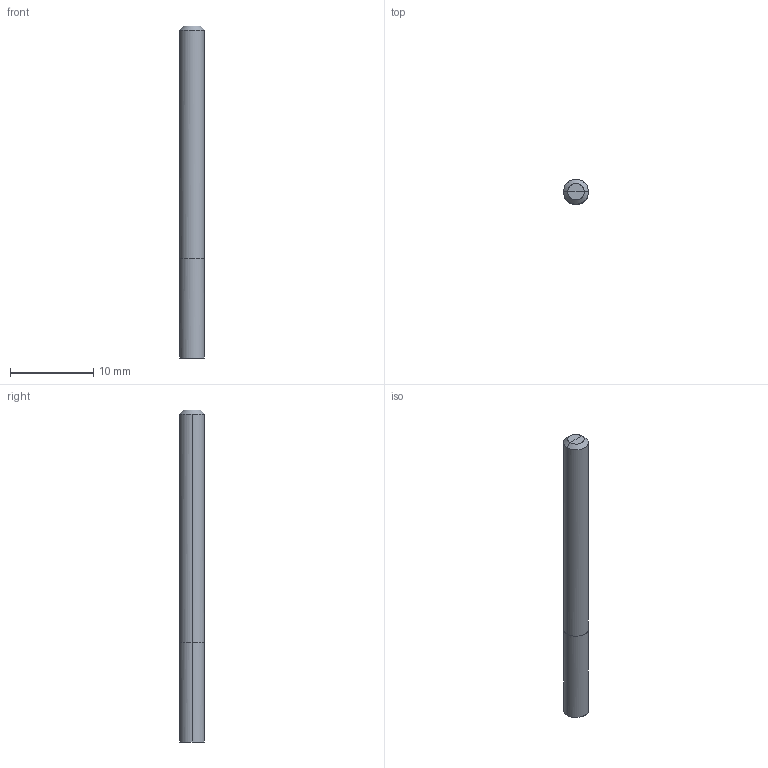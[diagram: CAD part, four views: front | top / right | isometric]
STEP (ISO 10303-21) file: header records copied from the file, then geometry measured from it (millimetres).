
FILE_DESCRIPTION(/* description */ (''),/* implementation_level */ '2;1');
FILE_NAME(/*name*/ '2041-3',/*time_stamp*/'2021-3-24T14:22:41',/*author*/ ('ISBE GmbH'),/*organization*/ ('ISBE GmbH'),/*preprocessor_version*/ 'STEP IO v1.0',/*originating_system*/ '',/*authorisation*/ '');
FILE_SCHEMA (('AUTOMOTIVE_DESIGN'));
Length unit declared in the file: millimetre
Products named in the file (1): Document
Bounding box: 3 x 3 x 40 mm (x, y, z)
Surface area: 402.7 mm2 (no closed solid volume)
Topology: 0 solids, 14 shells, 14 faces, 58 edges, 52 vertices
Faces by surface type: bspline 14
Entity records: 887 total; most frequent: CARTESIAN_POINT 622, VERTEX_POINT 48, EDGE_CURVE 48, ORIENTED_EDGE 48, DIRECTION 16, EDGE_LOOP 14, FACE_OUTER_BOUND 14, ADVANCED_FACE 14
